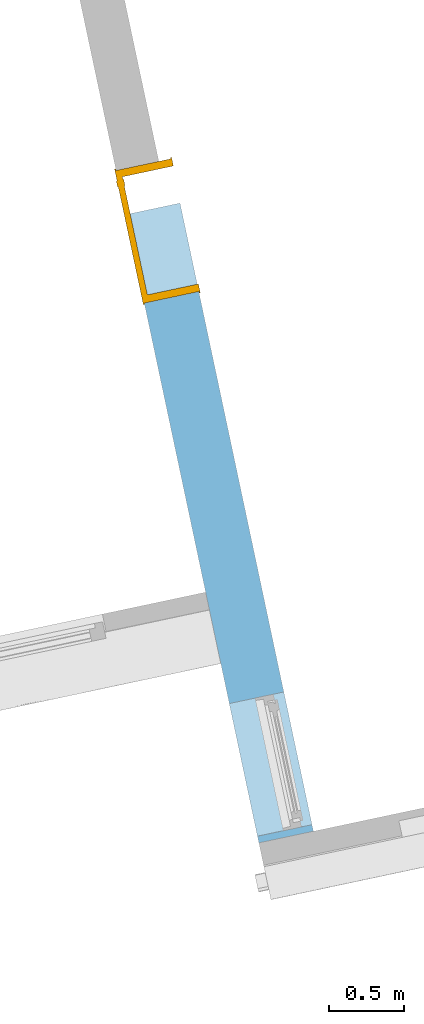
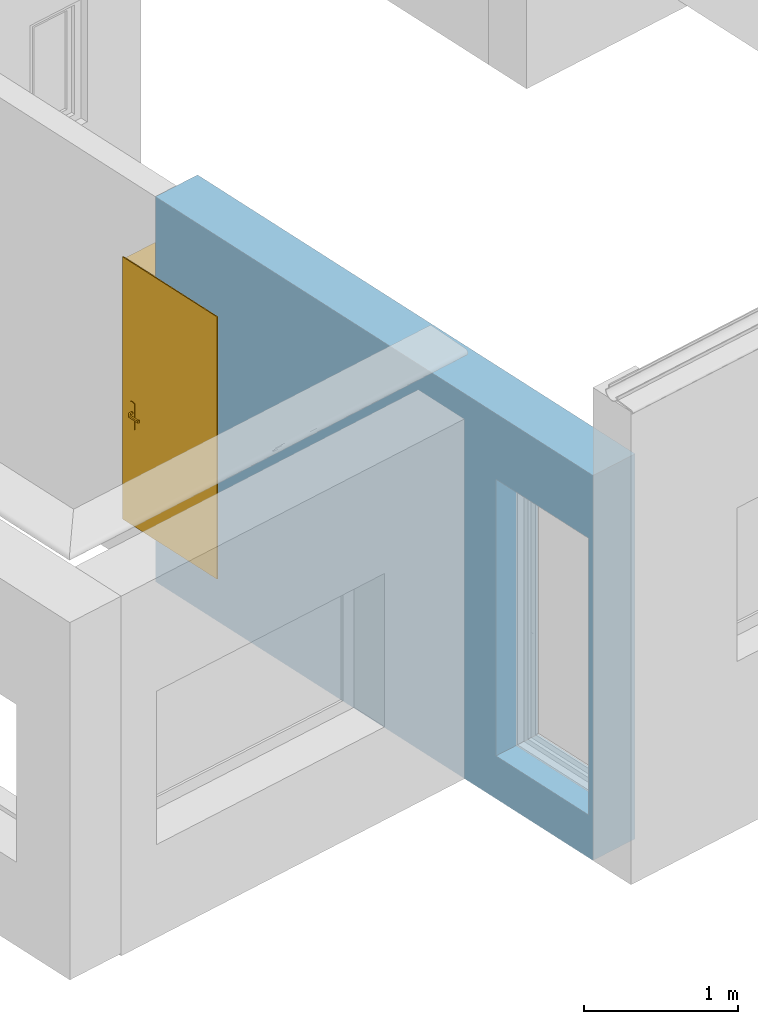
"""IFC2X3 building model written with IfcOpenShell, lengths in centimetres."""

from ifc_helpers import new_model, entity, si_unit, converted_unit, derived_unit, direction, frame, frame_2d, origin, place, context, subcontext, project, spatial, rectangle, extrude, faceted_brep, source, transform, mapped, material, layer, layer_set, layer_usage, type_object, type_shapes, element, fill, save


model = new_model("IFC2X3")

# Units and contexts
model_context = context("Model", 3, precision=0.001, world=origin(), true_north=direction((6.12303176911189e-17, 1.0)))
body_context = subcontext(model_context, "Body", "Model", "MODEL_VIEW")
ifc_project = project(units=[si_unit("LENGTHUNIT", "METRE", prefix="CENTI"), si_unit("AREAUNIT", "SQUARE_METRE"), si_unit("VOLUMEUNIT", "CUBIC_METRE"), converted_unit("PLANEANGLEUNIT", "DEGREE", entity("IfcRatioMeasure", 0.0174532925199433), si_unit("PLANEANGLEUNIT", "RADIAN"), dimensions=[0, 0, 0, 0, 0, 0, 0]), si_unit("MASSUNIT", "GRAM", prefix="KILO"), derived_unit("MASSDENSITYUNIT", [(si_unit("MASSUNIT", "GRAM", prefix="KILO"), 1), (si_unit("LENGTHUNIT", "METRE"), -3)]), derived_unit("IONCONCENTRATIONUNIT", [(si_unit("MASSUNIT", "GRAM", prefix="KILO"), 1), (si_unit("LENGTHUNIT", "METRE"), -3)]), derived_unit("MOMENTOFINERTIAUNIT", [(si_unit("LENGTHUNIT", "METRE"), 4)]), si_unit("TIMEUNIT", "SECOND"), si_unit("FREQUENCYUNIT", "HERTZ"), si_unit("THERMODYNAMICTEMPERATUREUNIT", "DEGREE_CELSIUS"), derived_unit("THERMALTRANSMITTANCEUNIT", [(si_unit("MASSUNIT", "GRAM", prefix="KILO"), 1), (si_unit("THERMODYNAMICTEMPERATUREUNIT", "KELVIN"), -1), (si_unit("TIMEUNIT", "SECOND"), -3)]), derived_unit("THERMALCONDUCTANCEUNIT", [(si_unit("MASSUNIT", "GRAM", prefix="KILO"), 1), (si_unit("THERMODYNAMICTEMPERATUREUNIT", "KELVIN"), -1), (si_unit("TIMEUNIT", "SECOND"), -3), (si_unit("LENGTHUNIT", "METRE"), 1)]), derived_unit("VOLUMETRICFLOWRATEUNIT", [(si_unit("LENGTHUNIT", "METRE"), 3), (si_unit("TIMEUNIT", "SECOND"), -1)]), derived_unit("MASSFLOWRATEUNIT", [(si_unit("MASSUNIT", "GRAM", prefix="KILO"), 1), (si_unit("TIMEUNIT", "SECOND"), -1)]), derived_unit("ROTATIONALFREQUENCYUNIT", [(si_unit("TIMEUNIT", "SECOND"), -1)]), si_unit("ELECTRICCURRENTUNIT", "AMPERE"), si_unit("ELECTRICVOLTAGEUNIT", "VOLT"), si_unit("POWERUNIT", "WATT"), si_unit("FORCEUNIT", "NEWTON", prefix="KILO"), si_unit("ILLUMINANCEUNIT", "LUX"), si_unit("LUMINOUSFLUXUNIT", "LUMEN"), si_unit("LUMINOUSINTENSITYUNIT", "CANDELA"), derived_unit("USERDEFINED", [(si_unit("MASSUNIT", "GRAM", prefix="KILO"), -1), (si_unit("LENGTHUNIT", "METRE"), -2), (si_unit("TIMEUNIT", "SECOND"), 3), (si_unit("LUMINOUSFLUXUNIT", "LUMEN"), 1)]), derived_unit("USERDEFINED", [(si_unit("MASSUNIT", "GRAM", prefix="KILO"), 1), (si_unit("TIMEUNIT", "SECOND"), -3), (si_unit("LENGTHUNIT", "METRE"), 3), (si_unit("ELECTRICCURRENTUNIT", "AMPERE"), -2)]), derived_unit("SOUNDPOWERUNIT", [(si_unit("MASSUNIT", "GRAM", prefix="KILO"), 1), (si_unit("TIMEUNIT", "SECOND"), -3), (si_unit("LENGTHUNIT", "METRE"), 2)]), derived_unit("SOUNDPRESSUREUNIT", [(si_unit("MASSUNIT", "GRAM", prefix="KILO"), 1), (si_unit("LENGTHUNIT", "METRE"), -1), (si_unit("TIMEUNIT", "SECOND"), -2)]), derived_unit("LINEARVELOCITYUNIT", [(si_unit("LENGTHUNIT", "METRE"), 1), (si_unit("TIMEUNIT", "SECOND"), -1)]), si_unit("PRESSUREUNIT", "PASCAL"), derived_unit("USERDEFINED", [(si_unit("MASSUNIT", "GRAM", prefix="KILO"), 1), (si_unit("LENGTHUNIT", "METRE"), -2), (si_unit("TIMEUNIT", "SECOND"), -2)]), derived_unit("LINEARFORCEUNIT", [(si_unit("MASSUNIT", "GRAM", prefix="KILO"), 1), (si_unit("TIMEUNIT", "SECOND"), -2)]), derived_unit("PLANARFORCEUNIT", [(si_unit("MASSUNIT", "GRAM", prefix="KILO"), 1), (si_unit("LENGTHUNIT", "METRE"), -1), (si_unit("TIMEUNIT", "SECOND"), -2)]), derived_unit("SPECIFICHEATCAPACITYUNIT", [(si_unit("THERMODYNAMICTEMPERATUREUNIT", "KELVIN"), -1), (si_unit("LENGTHUNIT", "METRE"), 2), (si_unit("TIMEUNIT", "SECOND"), -2)]), derived_unit("HEATINGVALUEUNIT", [(si_unit("LENGTHUNIT", "METRE"), 2), (si_unit("TIMEUNIT", "SECOND"), -2)]), derived_unit("VAPORPERMEABILITYUNIT", [(si_unit("LENGTHUNIT", "METRE"), -1), (si_unit("TIMEUNIT", "SECOND"), 1)]), derived_unit("DYNAMICVISCOSITYUNIT", [(si_unit("MASSUNIT", "GRAM", prefix="KILO"), 1), (si_unit("TIMEUNIT", "SECOND"), -1), (si_unit("LENGTHUNIT", "METRE"), -1)]), derived_unit("THERMALEXPANSIONCOEFFICIENTUNIT", [(si_unit("THERMODYNAMICTEMPERATUREUNIT", "KELVIN"), -1)]), derived_unit("MODULUSOFELASTICITYUNIT", [(si_unit("MASSUNIT", "GRAM", prefix="KILO"), 1), (si_unit("LENGTHUNIT", "METRE"), -1), (si_unit("TIMEUNIT", "SECOND"), -2)]), derived_unit("ISOTHERMALMOISTURECAPACITYUNIT", [(si_unit("LENGTHUNIT", "METRE"), 3), (si_unit("MASSUNIT", "GRAM", prefix="KILO"), -1)]), derived_unit("MOISTUREDIFFUSIVITYUNIT", [(si_unit("TIMEUNIT", "SECOND"), -1), (si_unit("LENGTHUNIT", "METRE"), 2)])], contexts=[model_context])

# Site, building, storey
site_placement = place(None, frame((14083.8920177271, -6853.25409548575, 6900.0), z_axis=(0.0, 0.0, 1.0), x_axis=(0.978188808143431, 0.207717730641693, 0.0)))
site = spatial("IfcSite", under=ifc_project, at=site_placement, Name="Surface", CompositionType="ELEMENT")
building_placement = place(site_placement, origin())
building = spatial("IfcBuilding", under=site, at=building_placement, CompositionType="ELEMENT")
storey_1_placement = place(building_placement, frame((0.0, 0.0, -17.0)))
storey_1 = spatial("IfcBuildingStorey", under=building, at=storey_1_placement, Name="Rez de chaussée (SD)", CompositionType="ELEMENT", Elevation=-16.9999999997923)

# Wall, openings
ifc_material_1 = material(Name="__ ENDUIT_Blanc")
ifc_layer_1 = layer(ifc_material_1, 2.0)
ifc_material_2 = material(Name="__ BETON_parpaings")
ifc_layer_2 = layer(ifc_material_2, 20.0)
ifc_material_3 = material(Name="__ ISOLANT (pat 1)")
ifc_layer_3 = layer(ifc_material_3, 13.0)
ifc_layer_4 = layer(ifc_material_1, 2.0)
ifc_layer_set = layer_set([ifc_layer_1, ifc_layer_2, ifc_layer_3, ifc_layer_4], Name="Mur de base:*BRIQUE 37 (20 +INT 13+2 + EXT 2) (Iso+BA13)(enduit)")
ifc_layer_usage = layer_usage(ifc_layer_set, "AXIS2", "NEGATIVE", 18.5)
wall_type = type_object("IfcWallType", Name="Mur de base:*BRIQUE 37 (20 +INT 13+2 + EXT 2) (Iso+BA13)(enduit)", PredefinedType="STANDARD", material=ifc_layer_set)
wall_placement = place(storey_1_placement, frame((-7718.4551432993, 14712.6724778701, 0.0), z_axis=(0.0, 0.0, 1.0), x_axis=(0.0, 1.0, 0.0)))
wall = element("IfcWallStandardCase", 1, at=wall_placement, inside=storey_1, type_object=wall_type, material=ifc_layer_usage, Name="Mur de base:*BRIQUE 37 (20 +INT 13+2 + EXT 2) (Iso+BA13)(enduit)", ObjectType="Mur de base:*BRIQUE 37 (20 +INT 13+2 + EXT 2) (Iso+BA13)(enduit)", context=body_context, shape_type="SweptSolid", body=[
    extrude(rectangle(XDim=425.999999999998, YDim=37.0000000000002, at=frame_2d((212.999999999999, -3.5527136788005e-14), x_axis=(-1.0, 0.0))), origin(), (0.0, 0.0, 1.0), 305.999999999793),
])
opening_1_placement = place(wall_placement, origin())
element("IfcOpeningElement", 2, at=opening_1_placement, cuts=wall, Name="Mur de base:*BRIQUE 37 (20 +INT 13+2 + EXT 2) (Iso+BA13)(enduit)", ObjectType="Opening", context=body_context, shape_type="SweptSolid", body=[
    extrude(rectangle(XDim=207.5, YDim=7.00000000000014, at=frame_2d((-8.66418048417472e-13, 0.0), x_axis=(0.0, 1.0))), frame((362.49486685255, -123.499999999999, 137.750000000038), z_axis=(0.0, 1.0, 0.0), x_axis=(1.0, 0.0, 0.0)), (0.0, 0.0, 1.0), 90.0000000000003),
])
opening_2_placement = place(wall_placement, frame((4.45997477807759, 21.0, 28.3850445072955), z_axis=(0.0, 0.0, 1.0), x_axis=(0.0, -1.0, 0.0)))
element("IfcOpeningElement", 3, at=opening_2_placement, cuts=wall, Name="Mur de base:*BRIQUE 37 (20 +INT 13+2 + EXT 2) (Iso+BA13)(enduit)", ObjectType="Opening", context=body_context, shape_type="Brep", body=[
    faceted_brep([(39.5000000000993, 90.0, 225.614955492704), (39.5000000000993, 0.0, 225.614955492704), (39.5000000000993, 0.0, 5.61495549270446), (39.5000000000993, 90.0, 5.61495549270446), (2.50000000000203, 90.0, 225.614955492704), (2.50000000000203, 90.0, 5.61495549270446), (2.50000000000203, 0.0999999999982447, 5.61495549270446), (2.50000000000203, 0.0, 5.61495549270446), (2.50000000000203, 0.0, 225.614955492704), (34.2000000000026, 90.0, 225.614955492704), (34.2000000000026, 90.0, 225.714955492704), (34.3000000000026, 90.0, 225.714955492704), (34.3000000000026, 90.0, 225.614955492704), (33.0, 0.0, 5.61495549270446), (33.0, 0.0999999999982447, 5.61495549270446), (34.3000000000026, 0.0, 225.614955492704), (34.3000000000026, 0.0, 225.714955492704), (34.2000000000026, 0.0, 225.714955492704), (34.2000000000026, 0.0, 225.614955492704), (14.3000000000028, 0.0, 225.614955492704), (14.3000000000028, 0.0, 225.714955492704), (14.2000000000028, 0.0, 225.714955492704), (14.2000000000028, 0.0, 225.614955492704), (0.0, 0.0, 5.61495549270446), (0.0, 0.0, 0.0), (30.5025116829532, 0.0, 2.11559678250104), (33.0, 0.0, 2.11559678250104), (30.5025116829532, 0.0999999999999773, 2.11559678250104), (0.0, 0.0999999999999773, 0.0), (0.0, 0.0999999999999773, 5.61495549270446), (33.0, 0.0999999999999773, 2.11559678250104), (14.3000000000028, 0.0999999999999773, 225.714955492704), (14.3000000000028, 0.0999999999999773, 225.614955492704), (14.2000000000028, 0.0999999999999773, 225.614955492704), (14.2000000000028, 0.0999999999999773, 225.714955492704)], [[[0, 1, 2, 3]], [[4, 5, 6, 7, 8]], [[0, 3, 5, 4, 9, 10, 11, 12]], [[3, 2, 13, 14, 6, 5]], [[2, 1, 15, 16, 17, 18, 19, 20, 21, 22, 8, 7, 23, 24, 25, 26, 13]], [[1, 0, 12, 15]], [[27, 28, 29, 6, 14, 30]], [[27, 30, 26, 25]], [[30, 14, 13, 26]], [[29, 23, 7, 6]], [[29, 28, 24, 23]], [[28, 27, 25, 24]], [[31, 32, 33, 34]], [[31, 34, 21, 20]], [[34, 33, 22, 21]], [[32, 31, 20, 19]], [[12, 11, 16, 15]], [[11, 10, 17, 16]], [[10, 9, 18, 17]], [[4, 8, 22, 33, 32, 19, 18, 9]]]),
])
opening_3_placement = place(wall_placement, frame((365.994866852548, -18.5000000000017, 34.0)))
opening_3 = element("IfcOpeningElement", 4, at=opening_3_placement, cuts=wall, Name="*Porte_alveolaire:Pp 83 x 204:1", ObjectType="Opening", context=body_context, shape_type="SweptSolid", body=[
    extrude(rectangle(XDim=207.5, YDim=89.9999999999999, at=frame_2d((103.75, 45.0), x_axis=(1.0, 0.0))), frame((0.0, 0.0, 0.0), z_axis=(0.0, 1.0, 0.0), x_axis=(0.0, 0.0, 1.0)), (0.0, 0.0, 1.0), 37.0),
])

# Storey
storey_2_placement = place(building_placement, frame((0.0, 0.0, 17.0)))
storey_2 = spatial("IfcBuildingStorey", under=building, at=storey_2_placement, Name="Rez de chaussée", CompositionType="ELEMENT", Elevation=17.0000000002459)

# Door
ifc_material_4 = material(Name="<Unnamed>")
door_style = type_object("IfcDoorStyle", Name="*Porte_alveolaire:Pp 83 x 204", ConstructionType="NOTDEFINED", OperationType="NOTDEFINED", ParameterTakesPrecedence=False, Sizeable=False, material=ifc_material_4)
shared_shape = source(origin(), body_context, "Body", "Brep", [
    faceted_brep([(8.7974701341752, 3.69999999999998, 89.2219559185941), (9.20252986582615, 3.69999999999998, 89.221955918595), (9.60000000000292, 3.69999999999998, 89.3000000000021), (9.60000000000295, 3.69999999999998, 90.699999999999), (9.20252986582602, 3.69999999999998, 90.7780440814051), (8.79747013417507, 3.69999999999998, 90.7780440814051), (8.39999999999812, 3.69999999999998, 90.699999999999), (8.39999999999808, 3.69999999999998, 89.2999999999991), (9.60000000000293, 5.94852045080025, 89.3000000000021), (9.60000000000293, 5.94852045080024, 90.699999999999), (9.20252986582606, 6.11315797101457, 90.7780440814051), (10.5838906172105, 7.49451872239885, 90.7780440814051), (10.4161093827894, 7.8995784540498, 90.7780440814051), (8.7974701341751, 6.28093920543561, 90.7780440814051), (19.5684749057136, 6.84673156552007, 90.7780440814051), (19.8548953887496, 7.13315204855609, 90.7780440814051), (19.0884689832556, 7.8995784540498, 90.7780440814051), (18.9206877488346, 7.49451872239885, 90.7780440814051), (8.39999999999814, 6.44557672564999, 90.699999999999), (8.39999999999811, 6.44557672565, 89.2999999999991), (8.7974701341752, 6.28093920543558, 89.2219559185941), (10.4161093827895, 7.89957845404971, 89.2219559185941), (10.5838906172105, 7.49451872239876, 89.221955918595), (9.20252986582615, 6.11315797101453, 89.221955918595), (19.8548953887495, 7.13315204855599, 89.221955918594), (19.5684749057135, 6.84673156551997, 89.221955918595), (18.9206877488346, 7.49451872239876, 89.221955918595), (19.0884689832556, 7.89957845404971, 89.221955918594), (10.7485281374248, 7.09704858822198, 89.3000000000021), (10.7485281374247, 7.09704858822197, 90.699999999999), (10.2514718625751, 8.29704858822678, 90.699999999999), (10.2514718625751, 8.2970485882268, 89.2999999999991), (14.7522879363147, 7.097048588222, 89.300000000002), (18.7560502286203, 7.09704858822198, 89.300000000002), (18.7560502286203, 7.09704858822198, 90.699999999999), (14.7522891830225, 7.09704858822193, 90.699999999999), (14.7522891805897, 7.71249275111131, 90.7878116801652), (19.25310650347, 8.29704858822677, 90.699999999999), (15.2600577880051, 8.29704858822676, 90.699999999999), (19.25310650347, 8.29704858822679, 89.2999999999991), (14.2445205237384, 8.29704858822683, 89.2999999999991), (14.7522892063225, 7.7124927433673, 89.2121883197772), (19.287421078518, 6.56567773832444, 89.300000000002), (20.1359492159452, 7.41420587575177, 89.2999999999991), (20.1359492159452, 7.41420587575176, 90.699999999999), (19.287421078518, 6.56567773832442, 90.699999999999)], [[[0, 1, 2, 3, 4, 5, 6, 7]], [[3, 2, 8, 9]], [[9, 10, 4, 3]], [[10, 11, 12, 13, 5, 4]], [[14, 15, 16, 17]], [[13, 18, 6, 5]], [[7, 6, 18, 19]], [[19, 20, 0, 7]], [[20, 21, 22, 23, 1, 0]], [[24, 25, 26, 27]], [[23, 8, 2, 1]], [[9, 8, 28, 29]], [[29, 11, 10, 9]], [[12, 30, 18, 13]], [[19, 18, 30, 31]], [[31, 21, 20, 19]], [[22, 28, 8, 23]], [[28, 32, 33, 34, 35, 29]], [[11, 35, 36]], [[16, 37, 38]], [[30, 12, 38]], [[38, 12, 36]], [[36, 35, 17]], [[17, 16, 36]], [[35, 11, 29]], [[34, 17, 35]], [[11, 36, 12]], [[38, 36, 16]], [[31, 30, 38, 37, 39, 40]], [[40, 41, 21]], [[41, 40, 27]], [[21, 31, 40]], [[39, 27, 40]], [[41, 32, 22]], [[22, 21, 41]], [[26, 32, 41]], [[28, 22, 32]], [[32, 26, 33]], [[26, 41, 27]], [[42, 25, 24, 43, 44, 15, 14, 45]], [[34, 33, 42, 45]], [[45, 14, 17, 34]], [[15, 44, 37, 16]], [[39, 37, 44, 43]], [[43, 24, 27, 39]], [[25, 42, 33, 26]]]),
    faceted_brep([(8.79747013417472, -1.30000000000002, 90.7780440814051), (9.20252986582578, -1.30000000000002, 90.7780440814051), (9.60000000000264, -1.30000000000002, 90.6999999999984), (9.60000000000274, -1.30000000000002, 89.3000000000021), (9.20252986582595, -1.30000000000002, 89.221955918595), (8.79747013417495, -1.30000000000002, 89.221955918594), (8.39999999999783, -1.30000000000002, 89.2999999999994), (8.39999999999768, -1.30000000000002, 90.699999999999), (8.39999999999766, -4.06509507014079, 90.6999999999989), (8.79747013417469, -3.9004575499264, 90.7780440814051), (10.402358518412, -5.50534593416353, 90.7780440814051), (10.570139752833, -5.10028620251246, 90.7780440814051), (9.20252986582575, -3.73267631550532, 90.7780440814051), (19.852181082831, -4.73891952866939, 90.778044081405), (19.5657605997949, -4.45249904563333, 90.778044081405), (18.9179734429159, -5.10028620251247, 90.778044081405), (19.085754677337, -5.50534593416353, 90.778044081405), (9.60000000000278, -3.56803879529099, 90.699999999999), (9.60000000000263, -3.56803879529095, 89.3000000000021), (9.20252986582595, -3.73267631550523, 89.221955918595), (10.5701397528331, -5.10028620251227, 89.221955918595), (10.4023585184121, -5.50534593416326, 89.221955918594), (8.79747013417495, -3.90045754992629, 89.221955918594), (19.5657605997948, -4.45249904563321, 89.221955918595), (19.8521810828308, -4.73891952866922, 89.221955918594), (19.0857546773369, -5.50534593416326, 89.221955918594), (18.9179734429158, -5.10028620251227, 89.221955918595), (8.39999999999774, -4.06509507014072, 89.2999999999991), (10.2377209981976, -5.90281606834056, 90.6999999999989), (10.7347772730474, -4.70281606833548, 90.699999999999), (10.7347772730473, -4.70281606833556, 89.3000000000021), (10.2377209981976, -5.90281606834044, 89.2999999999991), (14.2307697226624, -5.90281606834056, 90.6999999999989), (14.7440566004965, -5.31828027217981, 90.7878115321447), (19.2503921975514, -5.90281606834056, 90.6999999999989), (14.7440565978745, -4.70281606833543, 90.699999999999), (18.7533359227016, -4.70281606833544, 90.6999999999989), (18.7533359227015, -4.70281606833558, 89.300000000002), (14.7440563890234, -4.70281606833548, 89.3000000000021), (14.7440565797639, -5.31828027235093, 89.2121884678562), (19.2503921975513, -5.90281606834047, 89.2999999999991), (15.2573436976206, -5.90281606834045, 89.2999999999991), (19.2847067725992, -4.17144521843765, 90.6999999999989), (20.1332349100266, -5.01997335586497, 90.6999999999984), (20.1332349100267, -5.019973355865, 89.2999999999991), (19.2847067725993, -4.17144521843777, 89.3000000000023)], [[[0, 1, 2, 3, 4, 5, 6, 7]], [[8, 9, 0, 7]], [[9, 10, 11, 12, 1, 0]], [[13, 14, 15, 16]], [[12, 17, 2, 1]], [[3, 2, 17, 18]], [[18, 19, 4, 3]], [[19, 20, 21, 22, 5, 4]], [[23, 24, 25, 26]], [[22, 27, 6, 5]], [[7, 6, 27, 8]], [[28, 10, 9, 8]], [[11, 29, 17, 12]], [[18, 17, 29, 30]], [[30, 20, 19, 18]], [[21, 31, 27, 22]], [[8, 27, 31, 28]], [[32, 33, 10]], [[33, 32, 16]], [[10, 28, 32]], [[34, 16, 32]], [[33, 35, 11]], [[11, 10, 33]], [[15, 35, 33]], [[29, 11, 35]], [[35, 15, 36]], [[15, 33, 16]], [[30, 29, 35, 36, 37, 38]], [[20, 38, 39]], [[25, 40, 41]], [[31, 21, 41]], [[41, 21, 39]], [[39, 38, 26]], [[26, 25, 39]], [[38, 20, 30]], [[37, 26, 38]], [[20, 39, 21]], [[41, 39, 25]], [[28, 31, 41, 40, 34, 32]], [[42, 14, 13, 43, 44, 24, 23, 45]], [[43, 13, 16, 34]], [[14, 42, 36, 15]], [[37, 36, 42, 45]], [[45, 23, 26, 37]], [[24, 44, 40, 25]], [[34, 40, 44, 43]]]),
    faceted_brep([(10.03527618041, 3.19999999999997, 76.6003983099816), (11.0, 3.19999999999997, 77.0), (11.0, 3.19999999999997, 98.0), (10.03527618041, 3.19999999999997, 98.3996016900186), (9.0, 3.19999999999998, 98.5358983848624), (7.96472381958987, 3.19999999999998, 98.3996016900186), (7.0, 3.19999999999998, 98.0), (7.0, 3.19999999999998, 77.0), (7.96472381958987, 3.19999999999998, 76.6003983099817), (9.0, 3.19999999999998, 76.4641016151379), (10.03527618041, 3.69999999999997, 98.3996016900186), (11.0, 3.69999999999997, 98.0), (11.0, 3.69999999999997, 77.0), (10.03527618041, 3.69999999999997, 76.6003983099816), (9.0, 3.69999999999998, 76.4641016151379), (7.96472381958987, 3.69999999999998, 76.6003983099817), (7.0, 3.69999999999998, 77.0), (7.0, 3.69999999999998, 98.0), (7.96472381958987, 3.69999999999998, 98.3996016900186), (9.0, 3.69999999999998, 98.5358983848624)], [[[0, 1, 2, 3, 4, 5, 6, 7, 8, 9]], [[10, 11, 12, 13, 14, 15, 16, 17, 18, 19]], [[11, 10, 3, 2]], [[3, 10, 19, 4]], [[19, 18, 5, 4]], [[18, 17, 6, 5]], [[7, 6, 17, 16]], [[16, 15, 8, 7]], [[8, 15, 14, 9]], [[14, 13, 0, 9]], [[13, 12, 1, 0]], [[2, 1, 12, 11]]]),
    faceted_brep([(10.03527618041, -1.30000000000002, 76.6003983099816), (11.0, -1.30000000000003, 77.0), (11.0, -1.30000000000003, 98.0), (10.03527618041, -1.30000000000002, 98.3996016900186), (9.0, -1.30000000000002, 98.5358983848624), (7.96472381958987, -1.30000000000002, 98.3996016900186), (7.0, -1.30000000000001, 98.0), (7.0, -1.30000000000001, 77.0), (7.96472381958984, -1.30000000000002, 76.6003983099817), (9.0, -1.30000000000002, 76.4641016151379), (10.03527618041, -0.800000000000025, 98.3996016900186), (11.0, -0.800000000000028, 98.0), (11.0, -0.800000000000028, 77.0), (10.03527618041, -0.800000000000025, 76.6003983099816), (9.0, -0.800000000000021, 76.4641016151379), (7.96472381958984, -0.800000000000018, 76.6003983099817), (7.0, -0.800000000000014, 77.0), (7.0, -0.800000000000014, 98.0), (7.96472381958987, -0.800000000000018, 98.3996016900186), (9.0, -0.800000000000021, 98.5358983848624)], [[[0, 1, 2, 3, 4, 5, 6, 7, 8, 9]], [[10, 11, 12, 13, 14, 15, 16, 17, 18, 19]], [[16, 15, 8, 7]], [[8, 15, 14, 9]], [[14, 13, 0, 9]], [[13, 12, 1, 0]], [[2, 1, 12, 11]], [[11, 10, 3, 2]], [[3, 10, 19, 4]], [[19, 18, 5, 4]], [[18, 17, 6, 5]], [[7, 6, 17, 16]]]),
    faceted_brep([(0.0, 0.0, 0.0), (0.0, 37.0, 0.0), (-1.0, 37.0, 0.0), (-1.0, 37.8000000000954, 0.0), (5.0, 37.8000000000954, 0.0), (5.0, 3.2, 0.0), (3.49999999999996, 3.2, 0.0), (3.49999999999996, -0.800000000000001, 0.0), (-1.0, -0.800000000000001, 0.0), (-1.0, 0.0, 0.0), (0.0, 0.0, 207.5), (0.0, 37.0, 207.5), (90.0, 37.0, 207.5), (90.0, 37.0, 0.0), (91.0, 37.0, 0.0), (91.0, 37.0, 208.5), (-1.0, 37.0, 208.5), (-1.0, 37.8000000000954, 208.5), (91.0, 37.8000000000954, 208.5), (91.0, 37.8000000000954, 0.0), (85.0, 37.8000000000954, 0.0), (85.0, 37.8000000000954, 202.500000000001), (5.0, 37.8000000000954, 202.500000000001), (5.0, 3.2, 202.500000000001), (85.0, 3.2, 202.500000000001), (85.0, 3.2, 0.0), (86.5, 3.2, 0.0), (86.5, 3.2, 204.0), (3.49999999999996, 3.2, 204.0), (3.49999999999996, -0.800000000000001, 204.0), (86.5, -0.800000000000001, 204.0), (86.5, -0.800000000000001, 0.0), (91.0, -0.800000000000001, 0.0), (91.0, -0.800000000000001, 208.5), (-1.0, -0.800000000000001, 208.5), (-1.0, 0.0, 208.5), (91.0, 0.0, 208.5), (91.0, 0.0, 0.0), (90.0, 0.0, 0.0), (90.0, 0.0, 207.5)], [[[0, 1, 2, 3, 4, 5, 6, 7, 8, 9]], [[1, 0, 10, 11]], [[2, 1, 11, 12, 13, 14, 15, 16]], [[3, 2, 16, 17]], [[4, 3, 17, 18, 19, 20, 21, 22]], [[5, 4, 22, 23]], [[6, 5, 23, 24, 25, 26, 27, 28]], [[7, 6, 28, 29]], [[8, 7, 29, 30, 31, 32, 33, 34]], [[9, 8, 34, 35]], [[0, 9, 35, 36, 37, 38, 39, 10]], [[12, 39, 38, 13]], [[38, 37, 32, 31, 26, 25, 20, 19, 14, 13]], [[18, 15, 14, 19]], [[24, 21, 20, 25]], [[30, 27, 26, 31]], [[36, 33, 32, 37]], [[11, 10, 39, 12]], [[17, 16, 15, 18]], [[23, 22, 21, 24]], [[29, 28, 27, 30]], [[35, 34, 33, 36]]]),
    faceted_brep([(3.49999999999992, -0.800000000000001, 204.0), (3.49999999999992, -0.800000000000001, 0.0), (86.5, -0.800000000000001, 0.0), (86.5, -0.800000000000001, 204.0), (3.49999999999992, 3.2, 204.0), (86.5, 3.2, 204.0), (86.5, 3.2, 0.0), (3.49999999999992, 3.2, 0.0)], [[[0, 1, 2, 3]], [[4, 5, 6, 7]], [[1, 0, 4, 7]], [[2, 1, 7, 6]], [[3, 2, 6, 5]], [[0, 3, 5, 4]]]),
])
type_shapes(door_style, [shared_shape])
door_placement = place(opening_3_placement, frame((90.0, 37.0, 0.0), z_axis=(0.0, 0.0, 1.0), x_axis=(-1.0, 0.0, 0.0)))
door = element("IfcDoor", 5, at=door_placement, inside=storey_2, type_object=door_style, material=ifc_material_4, Name="*Porte_alveolaire:Pp 83 x 204", ObjectType="*Porte_alveolaire:Pp 83 x 204", OverallHeight=207.5, OverallWidth=90.0000000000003, context=body_context, shape_type="MappedRepresentation", body=[
    mapped(shared_shape, transform((0.0, 0.0, 0.0), scale=1.0)),
])

fill(opening_3, door)

save(model, "model.ifc")
